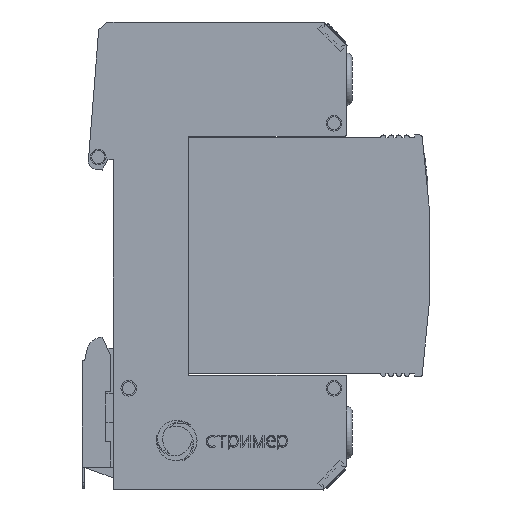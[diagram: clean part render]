
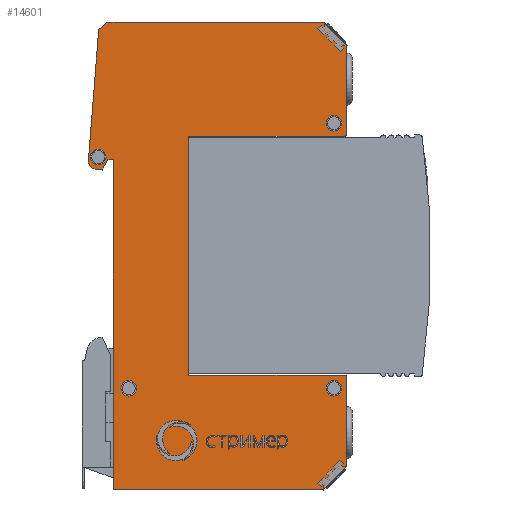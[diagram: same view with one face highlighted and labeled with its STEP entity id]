
A CAD part, front view. The second image highlights one B-rep face of the part: STEP entity #14601.
In plain terms, the highlighted planar face has unit normal (0, -1, 0).
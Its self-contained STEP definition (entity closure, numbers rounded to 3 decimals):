
#12801=CARTESIAN_POINT('',(-14.5,-9.,-45.));
#12802=VERTEX_POINT('',#12801);
#12803=CARTESIAN_POINT('',(26.,-9.,-45.));
#12804=VERTEX_POINT('',#12803);
#12805=CARTESIAN_POINT('',(-14.5,-9.,-45.));
#12806=DIRECTION('',(1.,0.,-0.));
#12807=VECTOR('',#12806,40.5);
#12808=LINE('',#12805,#12807);
#12809=EDGE_CURVE('',#12802,#12804,#12808,.T.);
#13471=CARTESIAN_POINT('',(-14.5,-9.,18.5));
#13472=VERTEX_POINT('',#13471);
#13473=CARTESIAN_POINT('',(-14.5,-9.,18.5));
#13474=DIRECTION('',(0.,0.,-1.));
#13475=VECTOR('',#13474,63.5);
#13476=LINE('',#13473,#13475);
#13477=EDGE_CURVE('',#13472,#12802,#13476,.T.);
#13672=CARTESIAN_POINT('',(-15.5,-9.,45.));
#13673=VERTEX_POINT('',#13672);
#13674=CARTESIAN_POINT('',(-17.29,-9.,43.498));
#13675=VERTEX_POINT('',#13674);
#13676=CARTESIAN_POINT('',(-15.5,-9.,45.));
#13677=DIRECTION('',(-0.766,0.,-0.643));
#13678=VECTOR('',#13677,2.337);
#13679=LINE('',#13676,#13678);
#13680=EDGE_CURVE('',#13673,#13675,#13679,.T.);
#13712=CARTESIAN_POINT('',(-19.273,-9.,18.306));
#13713=VERTEX_POINT('',#13712);
#13714=CARTESIAN_POINT('',(-17.29,-9.,43.498));
#13715=DIRECTION('',(-0.078,0.,-0.997));
#13716=VECTOR('',#13715,25.27);
#13717=LINE('',#13714,#13716);
#13718=EDGE_CURVE('',#13675,#13713,#13717,.T.);
#13743=CARTESIAN_POINT('',(-17.999,-9.,16.704));
#13744=VERTEX_POINT('',#13743);
#13745=CARTESIAN_POINT('',(-17.777,-9.,18.188));
#13746=DIRECTION('',(0.,-1.,0.));
#13747=DIRECTION('',(0.,0.,1.));
#13748=AXIS2_PLACEMENT_3D('',#13745,#13746,#13747);
#13749=CIRCLE('',#13748,1.5);
#13750=EDGE_CURVE('',#13713,#13744,#13749,.T.);
#13776=CARTESIAN_POINT('',(-16.632,-9.,16.5));
#13777=VERTEX_POINT('',#13776);
#13778=CARTESIAN_POINT('',(-17.999,-9.,16.704));
#13779=DIRECTION('',(0.989,0.,-0.148));
#13780=VECTOR('',#13779,1.383);
#13781=LINE('',#13778,#13780);
#13782=EDGE_CURVE('',#13744,#13777,#13781,.T.);
#13807=CARTESIAN_POINT('',(-15.5,-9.,18.5));
#13808=VERTEX_POINT('',#13807);
#13809=CARTESIAN_POINT('',(-16.632,-9.,16.5));
#13810=DIRECTION('',(0.492,0.,0.87));
#13811=VECTOR('',#13810,2.298);
#13812=LINE('',#13809,#13811);
#13813=EDGE_CURVE('',#13777,#13808,#13812,.T.);
#13838=CARTESIAN_POINT('',(-15.5,-9.,18.5));
#13839=DIRECTION('',(1.,0.,0.));
#13840=VECTOR('',#13839,1.);
#13841=LINE('',#13838,#13840);
#13842=EDGE_CURVE('',#13808,#13472,#13841,.T.);
#13860=CARTESIAN_POINT('',(30.5,-9.,-40.5));
#13861=VERTEX_POINT('',#13860);
#13862=CARTESIAN_POINT('',(26.,-9.,-45.));
#13863=DIRECTION('',(0.707,0.,0.707));
#13864=VECTOR('',#13863,6.364);
#13865=LINE('',#13862,#13864);
#13866=EDGE_CURVE('',#12804,#13861,#13865,.T.);
#13911=CARTESIAN_POINT('',(30.5,-9.,-23.5));
#13912=VERTEX_POINT('',#13911);
#13913=CARTESIAN_POINT('',(30.5,-9.,-40.5));
#13914=DIRECTION('',(0.,0.,1.));
#13915=VECTOR('',#13914,17.);
#13916=LINE('',#13913,#13915);
#13917=EDGE_CURVE('',#13861,#13912,#13916,.T.);
#13942=CARTESIAN_POINT('',(30.,-9.,-23.));
#13943=VERTEX_POINT('',#13942);
#13944=CARTESIAN_POINT('',(30.,-9.,-23.5));
#13945=DIRECTION('',(0.,-1.,0.));
#13946=DIRECTION('',(0.,0.,1.));
#13947=AXIS2_PLACEMENT_3D('',#13944,#13945,#13946);
#13948=CIRCLE('',#13947,0.5);
#13949=EDGE_CURVE('',#13912,#13943,#13948,.T.);
#13975=CARTESIAN_POINT('',(0.,-9.,-23.));
#13976=VERTEX_POINT('',#13975);
#13977=CARTESIAN_POINT('',(30.,-9.,-23.));
#13978=DIRECTION('',(-1.,0.,0.));
#13979=VECTOR('',#13978,30.);
#13980=LINE('',#13977,#13979);
#13981=EDGE_CURVE('',#13943,#13976,#13980,.T.);
#14006=CARTESIAN_POINT('',(0.,-9.,23.));
#14007=VERTEX_POINT('',#14006);
#14008=CARTESIAN_POINT('',(0.,-9.,-23.));
#14009=DIRECTION('',(0.,0.,1.));
#14010=VECTOR('',#14009,46.);
#14011=LINE('',#14008,#14010);
#14012=EDGE_CURVE('',#13976,#14007,#14011,.T.);
#14037=CARTESIAN_POINT('',(30.,-9.,23.));
#14038=VERTEX_POINT('',#14037);
#14039=CARTESIAN_POINT('',(0.,-9.,23.));
#14040=DIRECTION('',(1.,0.,0.));
#14041=VECTOR('',#14040,30.);
#14042=LINE('',#14039,#14041);
#14043=EDGE_CURVE('',#14007,#14038,#14042,.T.);
#14068=CARTESIAN_POINT('',(30.5,-9.,23.5));
#14069=VERTEX_POINT('',#14068);
#14070=CARTESIAN_POINT('',(30.,-9.,23.5));
#14071=DIRECTION('',(0.,-1.,0.));
#14072=DIRECTION('',(0.,0.,1.));
#14073=AXIS2_PLACEMENT_3D('',#14070,#14071,#14072);
#14074=CIRCLE('',#14073,0.5);
#14075=EDGE_CURVE('',#14038,#14069,#14074,.T.);
#14121=CARTESIAN_POINT('',(30.5,-9.,40.5));
#14122=VERTEX_POINT('',#14121);
#14123=CARTESIAN_POINT('',(30.5,-9.,23.5));
#14124=DIRECTION('',(0.,0.,1.));
#14125=VECTOR('',#14124,17.);
#14126=LINE('',#14123,#14125);
#14127=EDGE_CURVE('',#14069,#14122,#14126,.T.);
#14152=CARTESIAN_POINT('',(26.,-9.,45.));
#14153=VERTEX_POINT('',#14152);
#14154=CARTESIAN_POINT('',(30.5,-9.,40.5));
#14155=DIRECTION('',(-0.707,0.,0.707));
#14156=VECTOR('',#14155,6.364);
#14157=LINE('',#14154,#14156);
#14158=EDGE_CURVE('',#14122,#14153,#14157,.T.);
#14183=CARTESIAN_POINT('',(-17.38,-9.,17.5));
#14184=VERTEX_POINT('',#14183);
#14193=CARTESIAN_POINT('',(-18.88,-9.,19.));
#14194=VERTEX_POINT('',#14193);
#14195=CARTESIAN_POINT('',(-17.38,-9.,19.));
#14196=DIRECTION('',(0.,-1.,0.));
#14197=DIRECTION('',(-1.,0.,0.));
#14198=AXIS2_PLACEMENT_3D('',#14195,#14196,#14197);
#14199=CIRCLE('',#14198,1.5);
#14200=EDGE_CURVE('',#14184,#14194,#14199,.T.);
#14225=CARTESIAN_POINT('',(28.,-9.,24.));
#14226=VERTEX_POINT('',#14225);
#14235=CARTESIAN_POINT('',(26.5,-9.,25.5));
#14236=VERTEX_POINT('',#14235);
#14237=CARTESIAN_POINT('',(28.,-9.,25.5));
#14238=DIRECTION('',(0.,-1.,0.));
#14239=DIRECTION('',(-1.,0.,0.));
#14240=AXIS2_PLACEMENT_3D('',#14237,#14238,#14239);
#14241=CIRCLE('',#14240,1.5);
#14242=EDGE_CURVE('',#14226,#14236,#14241,.T.);
#14267=CARTESIAN_POINT('',(-11.5,-9.,-27.));
#14268=VERTEX_POINT('',#14267);
#14277=CARTESIAN_POINT('',(-13.,-9.,-25.5));
#14278=VERTEX_POINT('',#14277);
#14279=CARTESIAN_POINT('',(-11.5,-9.,-25.5));
#14280=DIRECTION('',(0.,-1.,0.));
#14281=DIRECTION('',(-1.,0.,0.));
#14282=AXIS2_PLACEMENT_3D('',#14279,#14280,#14281);
#14283=CIRCLE('',#14282,1.5);
#14284=EDGE_CURVE('',#14268,#14278,#14283,.T.);
#14309=CARTESIAN_POINT('',(28.,-9.,-27.));
#14310=VERTEX_POINT('',#14309);
#14319=CARTESIAN_POINT('',(26.5,-9.,-25.5));
#14320=VERTEX_POINT('',#14319);
#14321=CARTESIAN_POINT('',(28.,-9.,-25.5));
#14322=DIRECTION('',(0.,-1.,0.));
#14323=DIRECTION('',(-1.,0.,0.));
#14324=AXIS2_PLACEMENT_3D('',#14321,#14322,#14323);
#14325=CIRCLE('',#14324,1.5);
#14326=EDGE_CURVE('',#14310,#14320,#14325,.T.);
#14453=CARTESIAN_POINT('',(26.,-9.,45.));
#14454=DIRECTION('',(-1.,0.,0.));
#14455=VECTOR('',#14454,41.5);
#14456=LINE('',#14453,#14455);
#14457=EDGE_CURVE('',#14153,#13673,#14456,.T.);
#14536=CARTESIAN_POINT('',(0.,-9.,0.));
#14537=DIRECTION('',(0.,-1.,0.));
#14538=DIRECTION('',(0.,0.,1.));
#14539=AXIS2_PLACEMENT_3D('',#14536,#14537,#14538);
#14540=PLANE('',#14539);
#14541=ORIENTED_EDGE('',*,*,#14326,.F.);
#14542=CARTESIAN_POINT('',(28.,-9.,-25.5));
#14543=DIRECTION('',(0.,-1.,0.));
#14544=DIRECTION('',(-1.,0.,0.));
#14545=AXIS2_PLACEMENT_3D('',#14542,#14543,#14544);
#14546=CIRCLE('',#14545,1.5);
#14547=EDGE_CURVE('',#14320,#14310,#14546,.T.);
#14548=ORIENTED_EDGE('',*,*,#14547,.F.);
#14549=EDGE_LOOP('',(#14541,#14548));
#14550=FACE_BOUND('',#14549,.T.);
#14551=ORIENTED_EDGE('',*,*,#14284,.F.);
#14552=CARTESIAN_POINT('',(-11.5,-9.,-25.5));
#14553=DIRECTION('',(0.,-1.,0.));
#14554=DIRECTION('',(-1.,0.,0.));
#14555=AXIS2_PLACEMENT_3D('',#14552,#14553,#14554);
#14556=CIRCLE('',#14555,1.5);
#14557=EDGE_CURVE('',#14278,#14268,#14556,.T.);
#14558=ORIENTED_EDGE('',*,*,#14557,.F.);
#14559=EDGE_LOOP('',(#14551,#14558));
#14560=FACE_BOUND('',#14559,.T.);
#14561=ORIENTED_EDGE('',*,*,#14242,.F.);
#14562=CARTESIAN_POINT('',(28.,-9.,25.5));
#14563=DIRECTION('',(0.,-1.,0.));
#14564=DIRECTION('',(-1.,0.,0.));
#14565=AXIS2_PLACEMENT_3D('',#14562,#14563,#14564);
#14566=CIRCLE('',#14565,1.5);
#14567=EDGE_CURVE('',#14236,#14226,#14566,.T.);
#14568=ORIENTED_EDGE('',*,*,#14567,.F.);
#14569=EDGE_LOOP('',(#14561,#14568));
#14570=FACE_BOUND('',#14569,.T.);
#14571=ORIENTED_EDGE('',*,*,#14200,.F.);
#14572=CARTESIAN_POINT('',(-17.38,-9.,19.));
#14573=DIRECTION('',(0.,-1.,0.));
#14574=DIRECTION('',(-1.,0.,0.));
#14575=AXIS2_PLACEMENT_3D('',#14572,#14573,#14574);
#14576=CIRCLE('',#14575,1.5);
#14577=EDGE_CURVE('',#14194,#14184,#14576,.T.);
#14578=ORIENTED_EDGE('',*,*,#14577,.F.);
#14579=EDGE_LOOP('',(#14571,#14578));
#14580=FACE_BOUND('',#14579,.T.);
#14581=ORIENTED_EDGE('',*,*,#13680,.T.);
#14582=ORIENTED_EDGE('',*,*,#13718,.T.);
#14583=ORIENTED_EDGE('',*,*,#13750,.T.);
#14584=ORIENTED_EDGE('',*,*,#13782,.T.);
#14585=ORIENTED_EDGE('',*,*,#13813,.T.);
#14586=ORIENTED_EDGE('',*,*,#13842,.T.);
#14587=ORIENTED_EDGE('',*,*,#13477,.T.);
#14588=ORIENTED_EDGE('',*,*,#12809,.T.);
#14589=ORIENTED_EDGE('',*,*,#13866,.T.);
#14590=ORIENTED_EDGE('',*,*,#13917,.T.);
#14591=ORIENTED_EDGE('',*,*,#13949,.T.);
#14592=ORIENTED_EDGE('',*,*,#13981,.T.);
#14593=ORIENTED_EDGE('',*,*,#14012,.T.);
#14594=ORIENTED_EDGE('',*,*,#14043,.T.);
#14595=ORIENTED_EDGE('',*,*,#14075,.T.);
#14596=ORIENTED_EDGE('',*,*,#14127,.T.);
#14597=ORIENTED_EDGE('',*,*,#14158,.T.);
#14598=ORIENTED_EDGE('',*,*,#14457,.T.);
#14599=EDGE_LOOP('',(#14581,#14582,#14583,#14584,#14585,#14586,#14587,#14588,#14589,#14590,#14591,#14592,#14593,#14594,#14595,#14596,#14597,#14598));
#14600=FACE_BOUND('',#14599,.T.);
#14601=ADVANCED_FACE('',(#14550,#14560,#14570,#14580,#14600),#14540,.T.);
